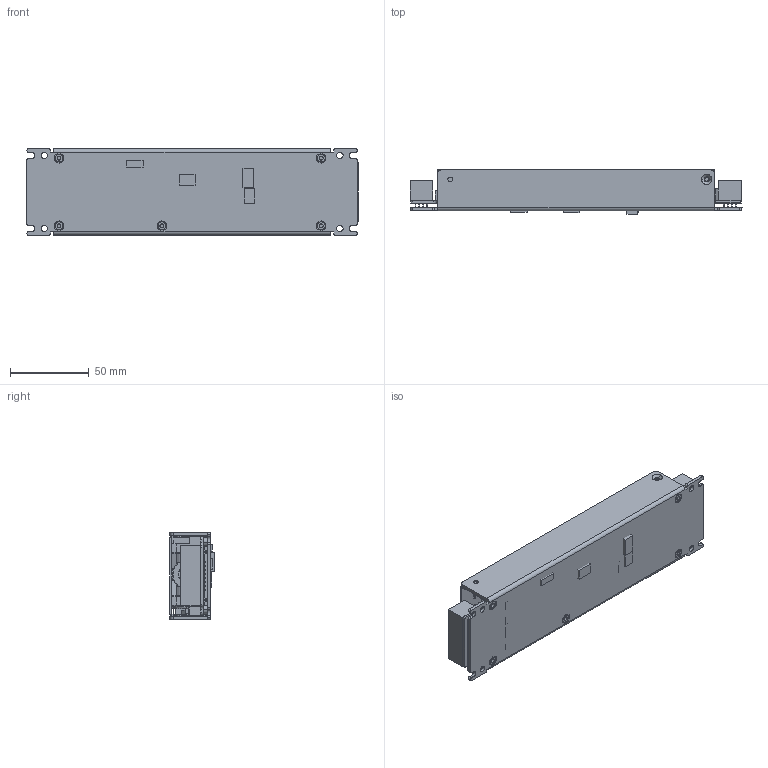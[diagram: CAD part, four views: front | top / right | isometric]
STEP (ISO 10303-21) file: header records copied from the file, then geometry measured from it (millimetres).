
FILE_DESCRIPTION((''),'2;1');
FILE_NAME('0TOP_VAT-UP300S-4_6-55L-A','2022-08-23T11:34:16',('pd068'),(''),'CREO PARAMETRIC BY PTC INC, 2017260','CREO PARAMETRIC BY PTC INC, 2017260','');
FILE_SCHEMA(('CONFIG_CONTROL_DESIGN','SHAPE_APPEARANCE_LAYERS_GROUPS'));
Products named in the file (1): 0TOP_VAT-UP300S-4_6-55L-A
Bounding box: 211.1 x 27.99 x 55 mm (x, y, z)
Surface area: 150710.1 mm2 (no closed solid volume)
Topology: 0 solids, 270 shells, 1792 faces, 7097 edges, 5475 vertices
Faces by surface type: plane 1451, cylinder 295, cone 26, torus 20
Entity records: 83704 total; most frequent: CARTESIAN_POINT 14491, DIRECTION 12927, ORIENTED_EDGE 10329, EDGE_CURVE 7087, VERTEX_POINT 5475, VECTOR 4767, LINE 4767, AXIS2_PLACEMENT_3D 4080
